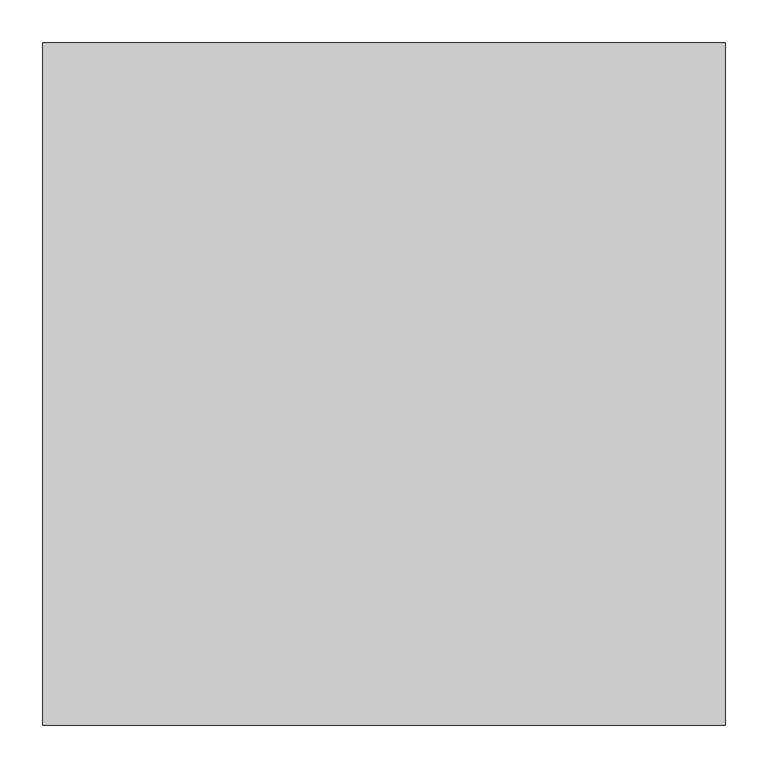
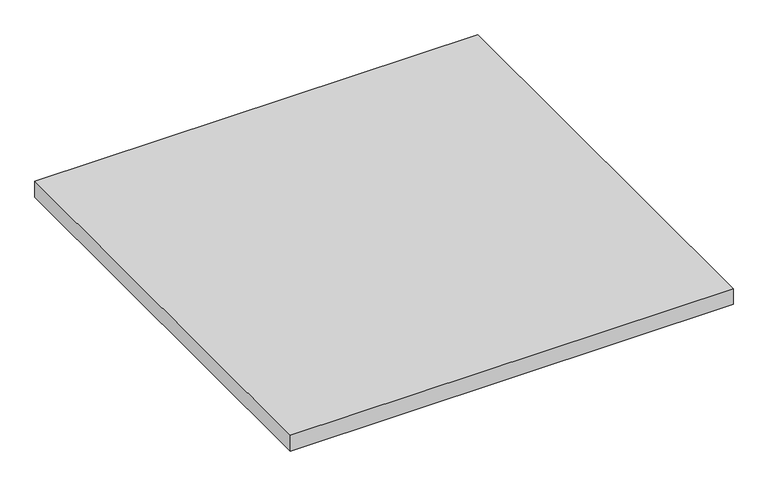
"""IFC4 building model written with IfcOpenShell, lengths in millimetres: proxy geometry, RSK LT BaseElement : RSK LT Element."""

import ifcopenshell
import ifcopenshell.guid

model = None  # the IFC model being written
_history = None  # IfcOwnerHistory: only IFC2X3 demands one
_inside = {}  # id of a spatial element -> (the spatial element, [elements in it])
_under = {}  # id of a project, library or spatial element -> (it, [spatial elements below it])
_declared = {}  # id of a project -> (the project, [libraries it declares])
_typed = {}  # id of a type object -> (the type object, [elements of that type])
_made_of = {}  # id of a material, layer set ... -> (it, [elements and type objects made of it])


def new_model(schema):
    """Start an empty IFC model of exactly this schema.

    Asked for "IFC4X3", IfcOpenShell would pick the latest addendum, in which some entities
    have other attributes; the version numbers below select the first issue.
    IFC2X3 requires an IfcOwnerHistory on every rooted entity: one is made here for all.
    """
    global model, _history
    if schema == "IFC4X3":
        model = ifcopenshell.file(schema_version=(4, 3, 0, 0))
    else:
        model = ifcopenshell.file(schema=schema)
    _inside.clear()
    _under.clear()
    _declared.clear()
    _typed.clear()
    _made_of.clear()
    _history = None
    if model.schema == "IFC2X3":
        org = make("IfcOrganization", Name="unknown")
        user = make(
            "IfcPersonAndOrganization",
            ThePerson=make("IfcPerson", FamilyName="unknown"),
            TheOrganization=org,
        )
        app = make(
            "IfcApplication",
            ApplicationDeveloper=org,
            Version="unknown",
            ApplicationFullName="unknown",
            ApplicationIdentifier="unknown",
        )
        _history = make(
            "IfcOwnerHistory",
            OwningUser=user,
            OwningApplication=app,
            ChangeAction="ADDED",
            CreationDate=0,
        )
    return model


def make(cls, **values):
    """One entity of the class cls with the attributes given. An attribute that is None is left unset."""
    return model.create_entity(
        cls, **{name: value for name, value in values.items() if value is not None}
    )


def rooted(cls, **values):
    """An entity with a GlobalId (a new one), such as an element, a storey or a relation."""
    return make(cls, GlobalId=ifcopenshell.guid.new(), OwnerHistory=_history, **values)


def si_unit(unit_type, name, prefix=None):
    """IfcSIUnit, for example si_unit("LENGTHUNIT", "METRE", prefix="MILLI")."""
    return make("IfcSIUnit", UnitType=unit_type, Prefix=prefix, Name=name)


def assignment(units):
    """IfcUnitAssignment: the units of a project."""
    return None if units is None else make("IfcUnitAssignment", Units=units)


def point(xyz):
    """IfcCartesianPoint."""
    return None if xyz is None else make("IfcCartesianPoint", Coordinates=xyz)


def direction(xyz):
    """IfcDirection."""
    return None if xyz is None else make("IfcDirection", DirectionRatios=xyz)


def frame(location, z_axis=None, x_axis=None):
    """IfcAxis2Placement3D, a coordinate frame: its origin and axes. An axis left out is left unset."""
    return make(
        "IfcAxis2Placement3D",
        Location=point(location),
        Axis=direction(z_axis),
        RefDirection=direction(x_axis),
    )


def origin():
    """The frame at (0, 0, 0) with its axes left unset."""
    return frame((0.0, 0.0, 0.0))


def origin_with_axes():
    """The frame at (0, 0, 0) with the z axis (0, 0, 1) and the x axis (1, 0, 0) written out."""
    return frame((0.0, 0.0, 0.0), z_axis=(0.0, 0.0, 1.0), x_axis=(1.0, 0.0, 0.0))


def place(relative_to, where):
    """IfcLocalPlacement: puts the frame where relative to a parent placement (None: the world)."""
    return make(
        "IfcLocalPlacement", PlacementRelTo=relative_to, RelativePlacement=where
    )


def context(
    kind, dimensions, precision=None, world=None, true_north=None, identifier=None
):
    """IfcGeometricRepresentationContext, for example the 3D "Model" context."""
    return make(
        "IfcGeometricRepresentationContext",
        ContextIdentifier=identifier,
        ContextType=kind,
        CoordinateSpaceDimension=dimensions,
        Precision=precision,
        WorldCoordinateSystem=world,
        TrueNorth=true_north,
    )


def project(units=None, contexts=None):
    """IfcProject with its units and contexts."""
    return rooted(
        "IfcProject",
        Name="project",
        RepresentationContexts=contexts,
        UnitsInContext=assignment(units),
    )


def spatial(cls, under=None, at=None, **own):
    """A site, building, storey or space (cls), placed at a placement, below another one or the project."""
    s = rooted(cls, ObjectPlacement=at, **own)
    if under is not None:
        _under.setdefault(under.id(), (under, []))[1].append(s)
    return s


def polyline(points):
    """IfcPolyline through the points."""
    return make("IfcPolyline", Points=[point(p) for p in points])


def outline(outer, holes=None, kind="AREA"):
    """IfcArbitraryClosedProfileDef: a profile drawn as a closed curve; with holes, ...WithVoids."""
    if holes is None:
        return make("IfcArbitraryClosedProfileDef", ProfileType=kind, OuterCurve=outer)
    return make(
        "IfcArbitraryProfileDefWithVoids",
        ProfileType=kind,
        OuterCurve=outer,
        InnerCurves=holes,
    )


def extrude(swept, where, along, depth):
    """IfcExtrudedAreaSolid: the profile swept, set in the frame where, extruded along a direction by depth."""
    return make(
        "IfcExtrudedAreaSolid",
        SweptArea=swept,
        Position=where,
        ExtrudedDirection=direction(along),
        Depth=depth,
    )


def shape(context_of_items, identifier, shape_type, items):
    """IfcShapeRepresentation: the items that make up one representation, for example the "Body"."""
    return make(
        "IfcShapeRepresentation",
        ContextOfItems=context_of_items,
        RepresentationIdentifier=identifier,
        RepresentationType=shape_type,
        Items=items,
    )


def source(mapping_origin, context_of_items, identifier, shape_type, items):
    """IfcRepresentationMap: a shape defined once, which mapped items show again and again."""
    return make(
        "IfcRepresentationMap",
        MappingOrigin=mapping_origin,
        MappedRepresentation=shape(context_of_items, identifier, shape_type, items),
    )


def transform(
    local_origin,
    x_axis=None,
    y_axis=None,
    z_axis=None,
    scale=None,
    scale2=None,
    scale3=None,
    uniform=True,
):
    """IfcCartesianTransformationOperator3D, or its non-uniform kind. x_axis, y_axis, z_axis: its Axis1, 2, 3."""
    if uniform:
        return make(
            "IfcCartesianTransformationOperator3D",
            Axis1=direction(x_axis),
            Axis2=direction(y_axis),
            LocalOrigin=point(local_origin),
            Scale=scale,
            Axis3=direction(z_axis),
        )
    return make(
        "IfcCartesianTransformationOperator3DnonUniform",
        Axis1=direction(x_axis),
        Axis2=direction(y_axis),
        LocalOrigin=point(local_origin),
        Scale=scale,
        Axis3=direction(z_axis),
        Scale2=scale2,
        Scale3=scale3,
    )


def mapped(mapping_source, mapping_target):
    """IfcMappedItem: shows the shape of a source again, moved by a transform."""
    return make(
        "IfcMappedItem", MappingSource=mapping_source, MappingTarget=mapping_target
    )


def made_of(thing, what):
    """Note that an element or type object is made of a material, layer set ...; save() writes the relation."""
    if what is not None:
        _made_of.setdefault(what.id(), (what, []))[1].append(thing)
    return thing


def element(
    cls,
    number,
    at=None,
    inside=None,
    cuts=None,
    type_object=None,
    material=None,
    context=None,
    identifier="Body",
    shape_type=None,
    held_by="IfcProductDefinitionShape",
    body=None,
    shapes=None,
    **own,
):
    """One element of the class cls, such as IfcWall. Its Tag is "e" and its number.

    at: its placement. inside: the storey or other place that contains it. cuts: it is an
    opening in that element (IfcRelVoidsElement). A single representation is given by context,
    identifier, shape_type and body (its items); several are given by shapes. held_by: the class
    of the entity that holds the representations. save() writes the other relations.
    """
    e = rooted(cls, Tag="e%d" % number, ObjectPlacement=at, **own)
    if body is not None:
        shapes = [shape(context, identifier, shape_type, body)]
    if shapes is not None:
        e.Representation = make(held_by, Representations=shapes)
    if inside is not None:
        _inside.setdefault(inside.id(), (inside, []))[1].append(e)
    if cuts is not None:
        rooted(
            "IfcRelVoidsElement", RelatingBuildingElement=cuts, RelatedOpeningElement=e
        )
    if type_object is not None:
        _typed.setdefault(type_object.id(), (type_object, []))[1].append(e)
    return made_of(e, material)


def aggregate(whole, parts):
    """IfcRelAggregates: a whole, such as a stair, and the parts it consists of."""
    return rooted("IfcRelAggregates", RelatingObject=whole, RelatedObjects=parts)


def save(model, path):
    """Write the relations noted so far, then the file.

    IfcRelAggregates (storeys below a building ...), IfcRelContainedInSpatialStructure (elements
    in a storey), IfcRelDefinesByType, IfcRelAssociatesMaterial and IfcRelDeclares: one each for
    every whole, place, type object, material and project.
    """
    for whole, parts in _under.values():
        aggregate(whole, parts)
    for where, things in _inside.values():
        rooted(
            "IfcRelContainedInSpatialStructure",
            RelatedElements=things,
            RelatingStructure=where,
        )
    for kind, things in _typed.values():
        rooted("IfcRelDefinesByType", RelatedObjects=things, RelatingType=kind)
    for what, things in _made_of.values():
        rooted("IfcRelAssociatesMaterial", RelatedObjects=things, RelatingMaterial=what)
    for by, libraries in _declared.values():
        rooted("IfcRelDeclares", RelatingContext=by, RelatedDefinitions=libraries)
    model.write(path)


def generic_models_6f5a1653(model_context):
    return source(origin(), model_context, "Body", "SweptSolid", [
        extrude(outline(polyline([(0.0, 0.0), (0.0, 800.0), (800.0, 800.0), (800.0, 0.0), (0.0, 0.0)])), origin_with_axes(), (0.0, 0.0, 1.0), 30.0),
    ])


if __name__ == "__main__":
    model = new_model("IFC4")
    model_context = context("Model", 3, world=origin())
    ifc_project = project(units=[si_unit("LENGTHUNIT", "METRE", prefix="MILLI")], contexts=[model_context])
    site = spatial("IfcSite", under=ifc_project)
    building = spatial("IfcBuilding", under=site)
    placement = place(None, origin())
    generic_models_shape = generic_models_6f5a1653(model_context)
    element("IfcBuildingElementProxy", 1, Name="RSK LT BaseElement : RSK LT Element", ObjectType="RSK LT BaseElement : RSK LT Element", at=placement, inside=building, context=model_context, shape_type="MappedRepresentation", body=[
        mapped(generic_models_shape, transform((0.0, 0.0, 0.0), x_axis=(1.0, 0.0, 0.0), y_axis=(0.0, 1.0, 0.0), z_axis=(0.0, 0.0, 1.0))),
    ])
    save(model, "model.ifc")
